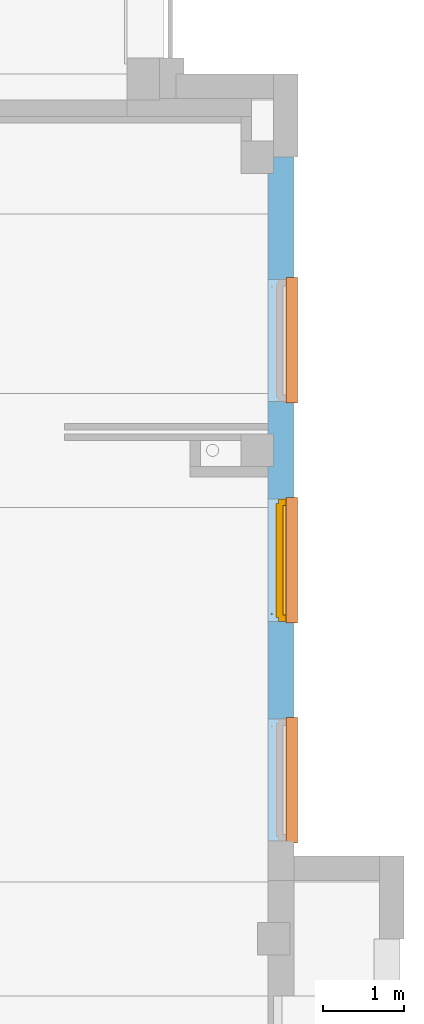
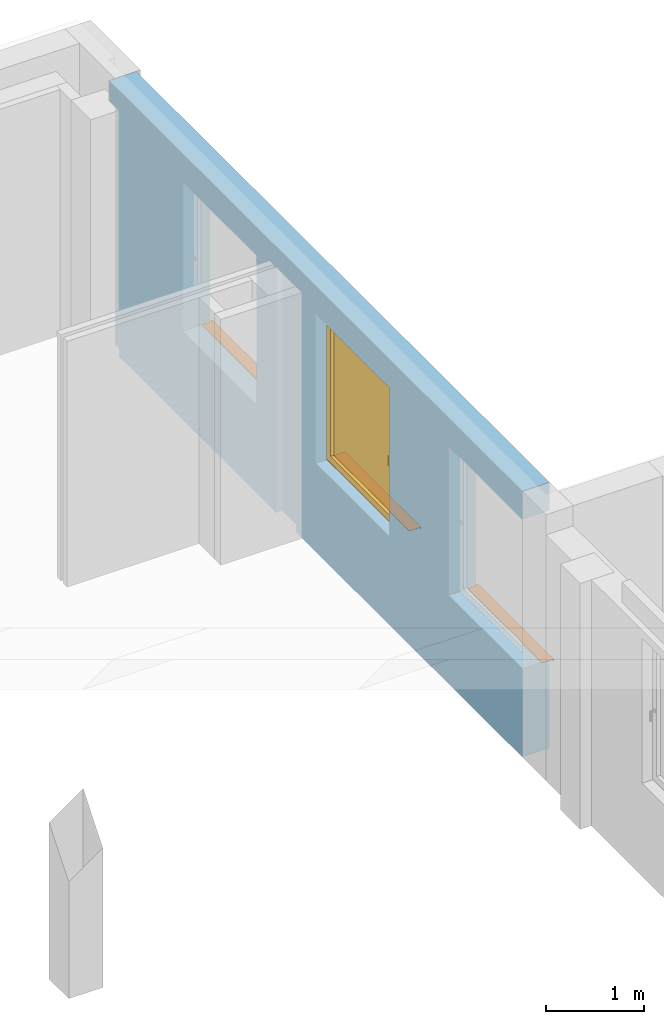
# One storey, part 24 of 27: 3 proxies, 1 window, 3 openings, plus 1 element that does not belong to this part.
"""IFC4 building model written with IfcOpenShell, lengths in metres."""

from ifc_helpers import new_model, entity, si_unit, converted_unit, derived_unit, frame, frame_2d, origin, origin_with_axes, place, context, subcontext, project, spatial, polyline, rectangle, outline, extrude, clip, bounded_halfspace, closed_shell, open_shell, faceted_brep, surface_model, source, transform, mapped, material, layer, layer_set, layer_usage, element, fill, save


model = new_model("IFC4")

# Units and contexts
model_context = context("Model", 3, precision=1e-05, world=origin())
body_context = subcontext(model_context, "Body", "Model", "MODEL_VIEW")
ifc_project = project(units=[si_unit("LENGTHUNIT", "METRE"), si_unit("AREAUNIT", "SQUARE_METRE"), si_unit("VOLUMEUNIT", "CUBIC_METRE"), si_unit("MASSUNIT", "GRAM", prefix="KILO"), converted_unit("PLANEANGLEUNIT", "DEGREE", entity("IfcPlaneAngleMeasure", 0.0174532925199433), si_unit("PLANEANGLEUNIT", "RADIAN"), dimensions=[0, 0, 0, 0, 0, 0, 0]), derived_unit("THERMALTRANSMITTANCEUNIT", [(si_unit("POWERUNIT", "WATT"), 1), (si_unit("THERMODYNAMICTEMPERATUREUNIT", "KELVIN"), -1), (si_unit("LENGTHUNIT", "METRE"), -2)]), derived_unit("VOLUMETRICFLOWRATEUNIT", [(si_unit("LENGTHUNIT", "METRE"), 3), (converted_unit("TIMEUNIT", "hour", entity("IfcTimeMeasure", 3600.0), si_unit("TIMEUNIT", "SECOND"), dimensions=[0, 0, 1, 0, 0, 0, 0]), -1), (si_unit("LENGTHUNIT", "METRE"), -1)])], contexts=[model_context])

# Site, building, storey
site_placement = place(None, origin())
site = spatial("IfcSite", under=ifc_project, at=site_placement, Name="3. ASŘ", CompositionType="ELEMENT")
building_placement = place(site_placement, origin())
building = spatial("IfcBuilding", under=site, at=building_placement, Name="Pavilon C", CompositionType="ELEMENT")
storey_placement = place(building_placement, frame((0.0, 0.0, 10.5)))
storey = spatial("IfcBuildingStorey", under=building, at=storey_placement, Name="Půdorys 4.NP", CompositionType="ELEMENT", Elevation=10.5)

# Wall, openings, window, proxies
ifc_material_1 = material(Name="ZELEZOBETONOVÁ KCE")
ifc_layer = layer(ifc_material_1, 0.32)
ifc_layer_set = layer_set([ifc_layer])
ifc_layer_usage = layer_usage(ifc_layer_set, "AXIS2", "POSITIVE", 0.0)
wall_placement = place(storey_placement, frame((50.2, 20.4, -0.1), z_axis=(0.0, 0.0, 1.0), x_axis=(0.0, 1.0, 0.0)))
wall = element("IfcWall", 1, at=wall_placement, inside=storey, material=ifc_layer_usage, Name="ZELEZOBETONOVÁ KCE", context=body_context, shape_type="Clipping", body=[
    clip(clip(extrude(rectangle(XDim=8.4, YDim=0.32, at=frame_2d((4.2, 0.16), x_axis=(1.0, 0.0))), origin_with_axes(), (0.0, 0.0, 1.0), 3.3), bounded_halfspace(frame((8.3, 0.285, 3.05), z_axis=(0.0, 0.0, 1.0), x_axis=(0.0, 1.0, 0.0)), True, origin_with_axes(), polyline([(8.4, 0.25), (8.4, 0.32), (8.2, 0.32), (8.2, 0.25), (8.4, 0.25)]))), bounded_halfspace(frame((4.80000000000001, 0.285, 3.05), z_axis=(0.0, 0.0, 1.0), x_axis=(0.0, 1.0, 0.0)), True, origin_with_axes(), polyline([(5.00000000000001, 0.25), (5.00000000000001, 0.32), (4.60000000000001, 0.32), (4.60000000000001, 0.25), (5.00000000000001, 0.25)]))),
])
opening_1_placement = place(wall_placement, frame((0.0, 0.0, 1.1), z_axis=(0.0, 1.0, 0.0), x_axis=(0.0, 0.0, 1.0)))
opening_1 = element("IfcOpeningElement", 2, at=opening_1_placement, cuts=wall, Name="Okenní otvor", ObjectType="Opening", context=body_context, shape_type="SweptSolid", body=[
    extrude(outline(polyline([(0.0, 1.5), (1.85, 1.5), (1.85, 0.0), (0.0, 0.0), (0.0, 1.5)])), origin_with_axes(), (0.0, 0.0, 1.0), 0.32),
])
opening_2_placement = place(wall_placement, frame((2.69999999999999, 0.0, 1.1), z_axis=(0.0, 1.0, 0.0), x_axis=(0.0, 0.0, 1.0)))
opening_2 = element("IfcOpeningElement", 3, at=opening_2_placement, cuts=wall, Name="Okenní otvor", ObjectType="Opening", context=body_context, shape_type="SweptSolid", body=[
    extrude(outline(polyline([(0.0, 1.5), (1.85, 1.5), (1.85, 0.0), (0.0, 0.0), (0.0, 1.5)])), origin_with_axes(), (0.0, 0.0, 1.0), 0.32),
])
opening_3_placement = place(wall_placement, frame((5.39999999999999, 0.0, 1.1), z_axis=(0.0, 1.0, 0.0), x_axis=(0.0, 0.0, 1.0)))
opening_3 = element("IfcOpeningElement", 4, at=opening_3_placement, cuts=wall, Name="Okenní otvor", ObjectType="Opening", context=body_context, shape_type="SweptSolid", body=[
    extrude(outline(polyline([(0.0, 1.5), (1.85, 1.5), (1.85, 0.0), (0.0, 0.0), (0.0, 1.5)])), origin_with_axes(), (0.0, 0.0, 1.0), 0.32),
])
shared_shape_1 = source(origin_with_axes(), body_context, "Body", "SurfaceModel", [
    surface_model("IfcShellBasedSurfaceModel", [(0.0, 0.182, 1.85), (0.0, 0.182, -5.63337527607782e-18), (0.08, 0.182, -5.63337527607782e-18), (0.08, 0.182, 1.85), (0.0, 0.0899999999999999, 5.63337527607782e-18), (0.0, 0.0900000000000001, 1.85), (0.08, 0.0900000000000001, 1.85), (0.08, 0.0899999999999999, 5.63337527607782e-18)], [closed_shell([[[0, 1, 2, 3]], [[4, 5, 6, 7]], [[1, 0, 5, 4]], [[2, 1, 4, 7]], [[3, 2, 7, 6]], [[0, 3, 6, 5]]], orient=[[False], [False], [False], [False], [False], [False]])]),
    surface_model("IfcShellBasedSurfaceModel", [(1.42, 0.182, 1.85), (1.42, 0.182, -5.63337527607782e-18), (1.5, 0.182, -5.63337527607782e-18), (1.5, 0.182, 1.85), (1.42, 0.0899999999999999, 5.63337527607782e-18), (1.42, 0.0900000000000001, 1.85), (1.5, 0.0900000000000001, 1.85), (1.5, 0.0899999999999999, 5.63337527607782e-18)], [closed_shell([[[0, 1, 2, 3]], [[4, 5, 6, 7]], [[1, 0, 5, 4]], [[2, 1, 4, 7]], [[3, 2, 7, 6]], [[0, 3, 6, 5]]], orient=[[False], [False], [False], [False], [False], [False]])]),
    surface_model("IfcShellBasedSurfaceModel", [(0.08, 0.182, 0.08), (0.08, 0.182, -5.63337527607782e-18), (1.42, 0.182, -5.63337527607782e-18), (1.42, 0.182, 0.08), (0.08, 0.0899999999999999, 5.63337527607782e-18), (0.08, 0.0899999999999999, 0.08), (1.42, 0.0899999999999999, 0.08), (1.42, 0.0899999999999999, 5.63337527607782e-18)], [closed_shell([[[0, 1, 2, 3]], [[4, 5, 6, 7]], [[1, 0, 5, 4]], [[2, 1, 4, 7]], [[3, 2, 7, 6]], [[0, 3, 6, 5]]], orient=[[False], [False], [False], [False], [False], [False]])]),
    surface_model("IfcShellBasedSurfaceModel", [(0.08, 0.182, 1.85), (0.08, 0.182, 1.77), (1.42, 0.182, 1.77), (1.42, 0.182, 1.85), (0.08, 0.0900000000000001, 1.77), (0.08, 0.0900000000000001, 1.85), (1.42, 0.0900000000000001, 1.85), (1.42, 0.0900000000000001, 1.77)], [closed_shell([[[0, 1, 2, 3]], [[4, 5, 6, 7]], [[1, 0, 5, 4]], [[2, 1, 4, 7]], [[3, 2, 7, 6]], [[0, 3, 6, 5]]], orient=[[False], [False], [False], [False], [False], [False]])]),
    surface_model("IfcShellBasedSurfaceModel", [(0.05, 0.145, 1.8), (0.05, 0.145, 0.05), (0.13, 0.145, 0.05), (0.13, 0.145, 1.8), (0.05, 0.0599999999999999, 0.05), (0.05, 0.0600000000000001, 1.8), (0.13, 0.0600000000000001, 1.8), (0.13, 0.0599999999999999, 0.05)], [closed_shell([[[0, 1, 2, 3]], [[4, 5, 6, 7]], [[1, 0, 5, 4]], [[2, 1, 4, 7]], [[3, 2, 7, 6]], [[0, 3, 6, 5]]], orient=[[False], [False], [False], [False], [False], [False]])]),
    surface_model("IfcShellBasedSurfaceModel", [(1.37, 0.145, 1.8), (1.37, 0.145, 0.05), (1.45, 0.145, 0.05), (1.45, 0.145, 1.8), (1.37, 0.0599999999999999, 0.05), (1.37, 0.0600000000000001, 1.8), (1.45, 0.0600000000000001, 1.8), (1.45, 0.0599999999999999, 0.05)], [closed_shell([[[0, 1, 2, 3]], [[4, 5, 6, 7]], [[1, 0, 5, 4]], [[2, 1, 4, 7]], [[3, 2, 7, 6]], [[0, 3, 6, 5]]], orient=[[False], [False], [False], [False], [False], [False]])]),
    surface_model("IfcShellBasedSurfaceModel", [(0.13, 0.145, 0.13), (0.13, 0.145, 0.05), (1.37, 0.145, 0.05), (1.37, 0.145, 0.13), (0.13, 0.0599999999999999, 0.05), (0.13, 0.0599999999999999, 0.13), (1.37, 0.0599999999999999, 0.13), (1.37, 0.0599999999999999, 0.05)], [closed_shell([[[0, 1, 2, 3]], [[4, 5, 6, 7]], [[1, 0, 5, 4]], [[2, 1, 4, 7]], [[3, 2, 7, 6]], [[0, 3, 6, 5]]], orient=[[False], [False], [False], [False], [False], [False]])]),
    surface_model("IfcShellBasedSurfaceModel", [(0.13, 0.145, 1.8), (0.13, 0.145, 1.72), (1.37, 0.145, 1.72), (1.37, 0.145, 1.8), (0.13, 0.0600000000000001, 1.72), (0.13, 0.0600000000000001, 1.8), (1.37, 0.0600000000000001, 1.8), (1.37, 0.0600000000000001, 1.72)], [closed_shell([[[0, 1, 2, 3]], [[4, 5, 6, 7]], [[1, 0, 5, 4]], [[2, 1, 4, 7]], [[3, 2, 7, 6]], [[0, 3, 6, 5]]], orient=[[False], [False], [False], [False], [False], [False]])]),
    surface_model("IfcShellBasedSurfaceModel", [(0.0775, 0.06, 0.945), (0.0775, 0.06, 0.905), (0.1025, 0.06, 0.905), (0.1025, 0.06, 0.945), (0.0775, 0.05, 0.905), (0.0775, 0.05, 0.945), (0.1025, 0.05, 0.945), (0.1025, 0.05, 0.905)], [closed_shell([[[0, 1, 2, 3]], [[4, 5, 6, 7]], [[1, 0, 5, 4]], [[2, 1, 4, 7]], [[3, 2, 7, 6]], [[0, 3, 6, 5]]], orient=[[False], [False], [False], [False], [False], [False]])]),
    surface_model("IfcShellBasedSurfaceModel", [(0.1, 0.05, 0.925), (0.0986602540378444, 0.05, 0.93), (0.095, 0.05, 0.933660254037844), (0.09, 0.05, 0.935), (0.085, 0.05, 0.933660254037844), (0.0813397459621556, 0.05, 0.93), (0.08, 0.05, 0.925), (0.0813397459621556, 0.05, 0.92), (0.085, 0.05, 0.916339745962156), (0.09, 0.05, 0.915), (0.095, 0.05, 0.916339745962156), (0.0986602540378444, 0.05, 0.92), (0.1, 0.01, 0.925), (0.0986602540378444, 0.00500000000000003, 0.93), (0.095, 0.00133974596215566, 0.933660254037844), (0.09, 2.8421709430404e-17, 0.935), (0.085, 0.00133974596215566, 0.933660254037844), (0.0813397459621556, 0.00500000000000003, 0.93), (0.08, 0.01, 0.925), (0.0813397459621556, 0.015, 0.92), (0.085, 0.0186602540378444, 0.916339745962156), (0.09, 0.02, 0.915), (0.095, 0.0186602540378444, 0.916339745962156), (0.0986602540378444, 0.015, 0.92), (0.1, 0.01, 0.81), (0.0986602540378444, 0.005, 0.81), (0.095, 0.00133974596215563, 0.81), (0.09, 0.0, 0.81), (0.085, 0.00133974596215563, 0.81), (0.0813397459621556, 0.005, 0.81), (0.08, 0.01, 0.81), (0.0813397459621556, 0.015, 0.81), (0.085, 0.0186602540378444, 0.81), (0.09, 0.02, 0.81), (0.095, 0.0186602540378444, 0.81), (0.0986602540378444, 0.015, 0.81)], [open_shell([[[0, 1, 2, 3, 4, 5, 6, 7, 8, 9, 10, 11]], [[0, 12, 13, 1]], [[1, 13, 14, 2]], [[2, 14, 15, 3]], [[3, 15, 16, 4]], [[4, 16, 17, 5]], [[5, 17, 18, 6]], [[6, 18, 19, 7]], [[7, 19, 20, 8]], [[8, 20, 21, 9]], [[9, 21, 22, 10]], [[10, 22, 23, 11]], [[11, 23, 12, 0]], [[12, 24, 25, 13]], [[13, 25, 26, 14]], [[14, 26, 27, 15]], [[15, 27, 28, 16]], [[16, 28, 29, 17]], [[17, 29, 30, 18]], [[18, 30, 31, 19]], [[19, 31, 32, 20]], [[20, 32, 33, 21]], [[21, 33, 34, 22]], [[22, 34, 35, 23]], [[23, 35, 24, 12]]], orient=[[False], [False], [False], [False], [False], [False], [False], [False], [False], [False], [False], [False], [False], [False], [False], [False], [False], [False], [False], [False], [False], [False], [False], [False], [False]])]),
    surface_model("IfcShellBasedSurfaceModel", [(0.13, 0.1025, 0.13), (1.37, 0.1025, 0.13), (1.37, 0.1025, 1.72), (0.13, 0.1025, 1.72)], [open_shell([[[0, 1, 2, 3]]], orient=[[False]])]),
])
window_placement = place(opening_2_placement, frame((0.0, -7.27595761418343e-15, 0.282000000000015), z_axis=(1.0, 0.0, 0.0), x_axis=(0.0, 1.0, -2.44929359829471e-16)))
window = element("IfcWindow", 5, at=window_placement, inside=storey, Name="O06", OverallHeight=1.85, OverallWidth=1.5, PartitioningType="USERDEFINED", PredefinedType="WINDOW", context=body_context, shape_type="MappedRepresentation", body=[
    mapped(shared_shape_1, transform((0.0, 0.0, 0.0), x_axis=(1.0, 0.0, 0.0), y_axis=(0.0, -1.0, 0.0), z_axis=(0.0, 0.0, 1.0), scale=1.0)),
])
fill(opening_2, window)
ifc_material_2 = material(Name="PLECH")
shared_shape_2 = source(origin_with_axes(), body_context, "Body", "Brep", [
    faceted_brep([(-7.27595761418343e-15, 1.45519152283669e-14, 0.0), (-7.27595761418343e-15, 0.100000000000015, 0.0), (-7.27595761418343e-15, 0.100000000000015, 0.005), (-7.27595761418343e-15, 1.45519152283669e-14, 0.005), (1.49999999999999, 1.45519152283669e-14, 0.0), (1.49999999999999, 1.45519152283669e-14, 0.005), (1.49999999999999, 0.100000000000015, 0.005), (1.49999999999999, 0.100000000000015, 0.0), (-0.0200000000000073, 1.45519152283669e-14, 0.0), (-0.0200000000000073, -0.0349999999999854, 0.0), (1.51999999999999, -0.0349999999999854, 0.0), (1.51999999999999, 1.45519152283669e-14, 0.0), (1.51999999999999, 1.45519152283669e-14, 0.005), (1.51999999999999, -0.0399999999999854, 0.005), (-0.0200000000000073, -0.0399999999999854, 0.005), (-0.0200000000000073, 1.45519152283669e-14, 0.005), (-0.0200000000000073, -0.0399999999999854, -0.025), (-0.0200000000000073, -0.0349999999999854, -0.025), (1.51999999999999, -0.0349999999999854, -0.025), (1.51999999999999, -0.0399999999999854, -0.025)], [[[0, 1, 2, 3]], [[4, 5, 6, 7]], [[1, 0, 8, 9, 10, 11, 4, 7]], [[2, 1, 7, 6]], [[3, 2, 6, 5, 12, 13, 14, 15]], [[8, 15, 14, 16, 17, 9]], [[11, 10, 18, 19, 13, 12]], [[15, 8, 0, 3]], [[5, 4, 11, 12]], [[16, 14, 13, 19]], [[17, 16, 19, 18]], [[9, 17, 18, 10]]], orient=[[False], [False], [False], [False], [False], [False], [False], [False], [False], [False], [False], [False]]),
    faceted_brep([(-0.0200000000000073, 1.45519152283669e-14, 0.0), (-0.0200000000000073, 0.100000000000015, 0.0), (-0.0200000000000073, 0.100000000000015, 0.005), (-0.0200000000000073, 1.45519152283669e-14, 0.005), (-7.27595761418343e-15, 1.45519152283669e-14, 0.0), (-7.27595761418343e-15, 1.45519152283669e-14, 0.005), (-7.27595761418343e-15, 0.100000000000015, 0.005), (-7.27595761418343e-15, 0.100000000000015, 0.0)], [[[0, 1, 2, 3]], [[4, 5, 6, 7]], [[1, 0, 4, 7]], [[2, 1, 7, 6]], [[3, 2, 6, 5]], [[0, 3, 5, 4]]], orient=[[False], [False], [False], [False], [False], [False]]),
    faceted_brep([(1.49999999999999, 1.45519152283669e-14, 0.0), (1.49999999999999, 0.100000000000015, 0.0), (1.49999999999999, 0.100000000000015, 0.005), (1.49999999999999, 1.45519152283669e-14, 0.005), (1.51999999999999, 1.45519152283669e-14, 0.0), (1.51999999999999, 1.45519152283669e-14, 0.005), (1.51999999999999, 0.100000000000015, 0.005), (1.51999999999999, 0.100000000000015, 0.0)], [[[0, 1, 2, 3]], [[4, 5, 6, 7]], [[1, 0, 4, 7]], [[2, 1, 7, 6]], [[3, 2, 6, 5]], [[0, 3, 5, 4]]], orient=[[False], [False], [False], [False], [False], [False]]),
])
proxy_1_placement = place(opening_1_placement, frame((0.0, 0.0, 0.0), z_axis=(1.0, 0.0, 0.0), x_axis=(0.0, 1.0, 0.0)))
proxy_1 = element("IfcBuildingElementProxy", 6, at=proxy_1_placement, inside=storey, material=ifc_material_2, Name="Parapet vnější", context=body_context, shape_type="MappedRepresentation", body=[
    mapped(shared_shape_2, transform((0.0, 0.0, 0.0), x_axis=(1.0, 0.0, 0.0), y_axis=(0.0, 1.0, 0.0), z_axis=(0.0, 0.0, 1.0), scale=1.0)),
])
fill(opening_1, proxy_1)
ifc_material_3 = material(Name="PLECH")
shared_shape_3 = source(origin_with_axes(), body_context, "Body", "Brep", [
    faceted_brep([(-7.27595761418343e-15, 1.45519152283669e-14, 0.0), (-7.27595761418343e-15, 0.100000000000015, 0.0), (-7.27595761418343e-15, 0.100000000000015, 0.005), (-7.27595761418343e-15, 1.45519152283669e-14, 0.005), (1.49999999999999, 1.45519152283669e-14, 0.0), (1.49999999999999, 1.45519152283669e-14, 0.005), (1.49999999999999, 0.100000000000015, 0.005), (1.49999999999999, 0.100000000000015, 0.0), (-0.0200000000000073, 1.45519152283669e-14, 0.0), (-0.0200000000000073, -0.0349999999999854, 0.0), (1.51999999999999, -0.0349999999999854, 0.0), (1.51999999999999, 1.45519152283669e-14, 0.0), (1.51999999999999, 1.45519152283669e-14, 0.005), (1.51999999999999, -0.0399999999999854, 0.005), (-0.0200000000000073, -0.0399999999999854, 0.005), (-0.0200000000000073, 1.45519152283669e-14, 0.005), (-0.0200000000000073, -0.0399999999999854, -0.025), (-0.0200000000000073, -0.0349999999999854, -0.025), (1.51999999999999, -0.0349999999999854, -0.025), (1.51999999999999, -0.0399999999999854, -0.025)], [[[0, 1, 2, 3]], [[4, 5, 6, 7]], [[1, 0, 8, 9, 10, 11, 4, 7]], [[2, 1, 7, 6]], [[3, 2, 6, 5, 12, 13, 14, 15]], [[8, 15, 14, 16, 17, 9]], [[11, 10, 18, 19, 13, 12]], [[15, 8, 0, 3]], [[5, 4, 11, 12]], [[16, 14, 13, 19]], [[17, 16, 19, 18]], [[9, 17, 18, 10]]], orient=[[False], [False], [False], [False], [False], [False], [False], [False], [False], [False], [False], [False]]),
    faceted_brep([(-0.0200000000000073, 1.45519152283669e-14, 0.0), (-0.0200000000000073, 0.100000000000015, 0.0), (-0.0200000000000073, 0.100000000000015, 0.005), (-0.0200000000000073, 1.45519152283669e-14, 0.005), (-7.27595761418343e-15, 1.45519152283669e-14, 0.0), (-7.27595761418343e-15, 1.45519152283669e-14, 0.005), (-7.27595761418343e-15, 0.100000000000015, 0.005), (-7.27595761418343e-15, 0.100000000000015, 0.0)], [[[0, 1, 2, 3]], [[4, 5, 6, 7]], [[1, 0, 4, 7]], [[2, 1, 7, 6]], [[3, 2, 6, 5]], [[0, 3, 5, 4]]], orient=[[False], [False], [False], [False], [False], [False]]),
    faceted_brep([(1.49999999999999, 1.45519152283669e-14, 0.0), (1.49999999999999, 0.100000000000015, 0.0), (1.49999999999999, 0.100000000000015, 0.005), (1.49999999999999, 1.45519152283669e-14, 0.005), (1.51999999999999, 1.45519152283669e-14, 0.0), (1.51999999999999, 1.45519152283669e-14, 0.005), (1.51999999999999, 0.100000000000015, 0.005), (1.51999999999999, 0.100000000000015, 0.0)], [[[0, 1, 2, 3]], [[4, 5, 6, 7]], [[1, 0, 4, 7]], [[2, 1, 7, 6]], [[3, 2, 6, 5]], [[0, 3, 5, 4]]], orient=[[False], [False], [False], [False], [False], [False]]),
])
proxy_2_placement = place(opening_2_placement, frame((0.0, 0.0, 0.0), z_axis=(1.0, 0.0, 0.0), x_axis=(0.0, 1.0, 0.0)))
proxy_2 = element("IfcBuildingElementProxy", 7, at=proxy_2_placement, inside=storey, material=ifc_material_3, Name="Parapet vnější", context=body_context, shape_type="MappedRepresentation", body=[
    mapped(shared_shape_3, transform((0.0, 0.0, 0.0), x_axis=(1.0, 0.0, 0.0), y_axis=(0.0, 1.0, 0.0), z_axis=(0.0, 0.0, 1.0), scale=1.0)),
])
fill(opening_2, proxy_2)
ifc_material_4 = material(Name="PLECH")
shared_shape_4 = source(origin_with_axes(), body_context, "Body", "Brep", [
    faceted_brep([(-7.27595761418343e-15, 1.45519152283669e-14, 0.0), (-7.27595761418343e-15, 0.100000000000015, 0.0), (-7.27595761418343e-15, 0.100000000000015, 0.005), (-7.27595761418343e-15, 1.45519152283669e-14, 0.005), (1.49999999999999, 1.45519152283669e-14, 0.0), (1.49999999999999, 1.45519152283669e-14, 0.005), (1.49999999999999, 0.100000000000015, 0.005), (1.49999999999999, 0.100000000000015, 0.0), (-0.0200000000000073, 1.45519152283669e-14, 0.0), (-0.0200000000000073, -0.0349999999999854, 0.0), (1.51999999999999, -0.0349999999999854, 0.0), (1.51999999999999, 1.45519152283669e-14, 0.0), (1.51999999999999, 1.45519152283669e-14, 0.005), (1.51999999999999, -0.0399999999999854, 0.005), (-0.0200000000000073, -0.0399999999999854, 0.005), (-0.0200000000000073, 1.45519152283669e-14, 0.005), (-0.0200000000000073, -0.0399999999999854, -0.025), (-0.0200000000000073, -0.0349999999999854, -0.025), (1.51999999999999, -0.0349999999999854, -0.025), (1.51999999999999, -0.0399999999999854, -0.025)], [[[0, 1, 2, 3]], [[4, 5, 6, 7]], [[1, 0, 8, 9, 10, 11, 4, 7]], [[2, 1, 7, 6]], [[3, 2, 6, 5, 12, 13, 14, 15]], [[8, 15, 14, 16, 17, 9]], [[11, 10, 18, 19, 13, 12]], [[15, 8, 0, 3]], [[5, 4, 11, 12]], [[16, 14, 13, 19]], [[17, 16, 19, 18]], [[9, 17, 18, 10]]], orient=[[False], [False], [False], [False], [False], [False], [False], [False], [False], [False], [False], [False]]),
    faceted_brep([(-0.0200000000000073, 1.45519152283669e-14, 0.0), (-0.0200000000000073, 0.100000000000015, 0.0), (-0.0200000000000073, 0.100000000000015, 0.005), (-0.0200000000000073, 1.45519152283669e-14, 0.005), (-7.27595761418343e-15, 1.45519152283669e-14, 0.0), (-7.27595761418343e-15, 1.45519152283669e-14, 0.005), (-7.27595761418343e-15, 0.100000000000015, 0.005), (-7.27595761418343e-15, 0.100000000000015, 0.0)], [[[0, 1, 2, 3]], [[4, 5, 6, 7]], [[1, 0, 4, 7]], [[2, 1, 7, 6]], [[3, 2, 6, 5]], [[0, 3, 5, 4]]], orient=[[False], [False], [False], [False], [False], [False]]),
    faceted_brep([(1.49999999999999, 1.45519152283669e-14, 0.0), (1.49999999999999, 0.100000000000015, 0.0), (1.49999999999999, 0.100000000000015, 0.005), (1.49999999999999, 1.45519152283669e-14, 0.005), (1.51999999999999, 1.45519152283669e-14, 0.0), (1.51999999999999, 1.45519152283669e-14, 0.005), (1.51999999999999, 0.100000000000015, 0.005), (1.51999999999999, 0.100000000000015, 0.0)], [[[0, 1, 2, 3]], [[4, 5, 6, 7]], [[1, 0, 4, 7]], [[2, 1, 7, 6]], [[3, 2, 6, 5]], [[0, 3, 5, 4]]], orient=[[False], [False], [False], [False], [False], [False]]),
])
proxy_3_placement = place(opening_3_placement, frame((0.0, 0.0, 0.0), z_axis=(1.0, 0.0, 0.0), x_axis=(0.0, 1.0, 0.0)))
proxy_3 = element("IfcBuildingElementProxy", 8, at=proxy_3_placement, inside=storey, material=ifc_material_4, Name="Parapet vnější", context=body_context, shape_type="MappedRepresentation", body=[
    mapped(shared_shape_4, transform((0.0, 0.0, 0.0), x_axis=(1.0, 0.0, 0.0), y_axis=(0.0, 1.0, 0.0), z_axis=(0.0, 0.0, 1.0), scale=1.0)),
])
fill(opening_3, proxy_3)

save(model, "model.ifc")
